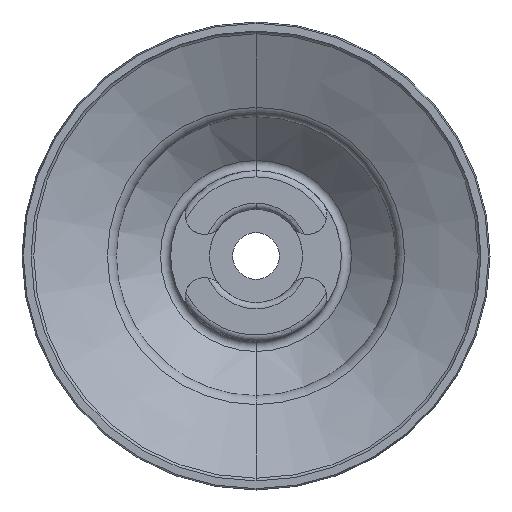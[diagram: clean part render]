
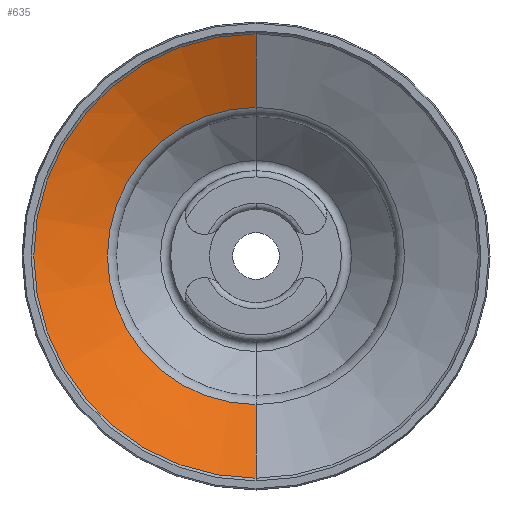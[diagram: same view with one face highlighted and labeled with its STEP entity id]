
A CAD part, front view. The second image highlights one B-rep face of the part: STEP entity #635.
In plain terms, the highlighted conical face has half-angle 65 degrees and reference radius 9.577 mm.
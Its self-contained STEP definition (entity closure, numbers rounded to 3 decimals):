
#111 = VECTOR ( 'NONE', #892, 1000. ) ;
#330 = CARTESIAN_POINT ( 'NONE',  ( 0., 2.594, 0. ) ) ;
#490 = VERTEX_POINT ( 'NONE', #2107 ) ;
#572 = DIRECTION ( 'NONE',  ( 0., 0., 1. ) ) ;
#635 = ADVANCED_FACE ( 'NONE', ( #665 ), #1671, .F. ) ;
#656 = CARTESIAN_POINT ( 'NONE',  ( 0., 0.379, -14.327 ) ) ;
#665 = FACE_OUTER_BOUND ( 'NONE', #2860, .T. ) ;
#818 = ORIENTED_EDGE ( 'NONE', *, *, #2368, .F. ) ;
#828 = VERTEX_POINT ( 'NONE', #656 ) ;
#892 = DIRECTION ( 'NONE',  ( 0., -0.423, -0.906 ) ) ;
#893 = EDGE_CURVE ( 'NONE', #2626, #1304, #1654, .T. ) ;
#943 = DIRECTION ( 'NONE',  ( 0., 0., -1. ) ) ;
#1121 = AXIS2_PLACEMENT_3D ( 'NONE', #2516, #2533, #3016 ) ;
#1145 = CIRCLE ( 'NONE', #1451, 9.577 ) ;
#1155 = CARTESIAN_POINT ( 'NONE',  ( 0., 2.594, -9.577 ) ) ;
#1170 = EDGE_CURVE ( 'NONE', #828, #1304, #2910, .T. ) ;
#1304 = VERTEX_POINT ( 'NONE', #2630 ) ;
#1411 = CARTESIAN_POINT ( 'NONE',  ( 0., 2.594, 9.577 ) ) ;
#1451 = AXIS2_PLACEMENT_3D ( 'NONE', #330, #1764, #572 ) ;
#1651 = CARTESIAN_POINT ( 'NONE',  ( 0., 2.594, 0. ) ) ;
#1654 = LINE ( 'NONE', #1411, #2352 ) ;
#1671 = CONICAL_SURFACE ( 'NONE', #3178, 9.577, 1.134 ) ;
#1696 = DIRECTION ( 'NONE',  ( 0., -1., 0. ) ) ;
#1759 = CARTESIAN_POINT ( 'NONE',  ( 0., 2.594, 9.577 ) ) ;
#1764 = DIRECTION ( 'NONE',  ( 0., 1., 0. ) ) ;
#1921 = LINE ( 'NONE', #1155, #111 ) ;
#1950 = ORIENTED_EDGE ( 'NONE', *, *, #1170, .F. ) ;
#2107 = CARTESIAN_POINT ( 'NONE',  ( 0., 2.594, -9.577 ) ) ;
#2352 = VECTOR ( 'NONE', #3077, 1000. ) ;
#2368 = EDGE_CURVE ( 'NONE', #490, #828, #1921, .T. ) ;
#2516 = CARTESIAN_POINT ( 'NONE',  ( 0., 0.379, 0. ) ) ;
#2533 = DIRECTION ( 'NONE',  ( 0., 1., 0. ) ) ;
#2626 = VERTEX_POINT ( 'NONE', #1759 ) ;
#2630 = CARTESIAN_POINT ( 'NONE',  ( 0., 0.379, 14.327 ) ) ;
#2641 = ORIENTED_EDGE ( 'NONE', *, *, #2946, .T. ) ;
#2860 = EDGE_LOOP ( 'NONE', ( #2641, #2976, #1950, #818 ) ) ;
#2910 = CIRCLE ( 'NONE', #1121, 14.327 ) ;
#2946 = EDGE_CURVE ( 'NONE', #490, #2626, #1145, .T. ) ;
#2976 = ORIENTED_EDGE ( 'NONE', *, *, #893, .T. ) ;
#3016 = DIRECTION ( 'NONE',  ( 0., 0., 1. ) ) ;
#3077 = DIRECTION ( 'NONE',  ( 0., -0.423, 0.906 ) ) ;
#3178 = AXIS2_PLACEMENT_3D ( 'NONE', #1651, #1696, #943 ) ;
